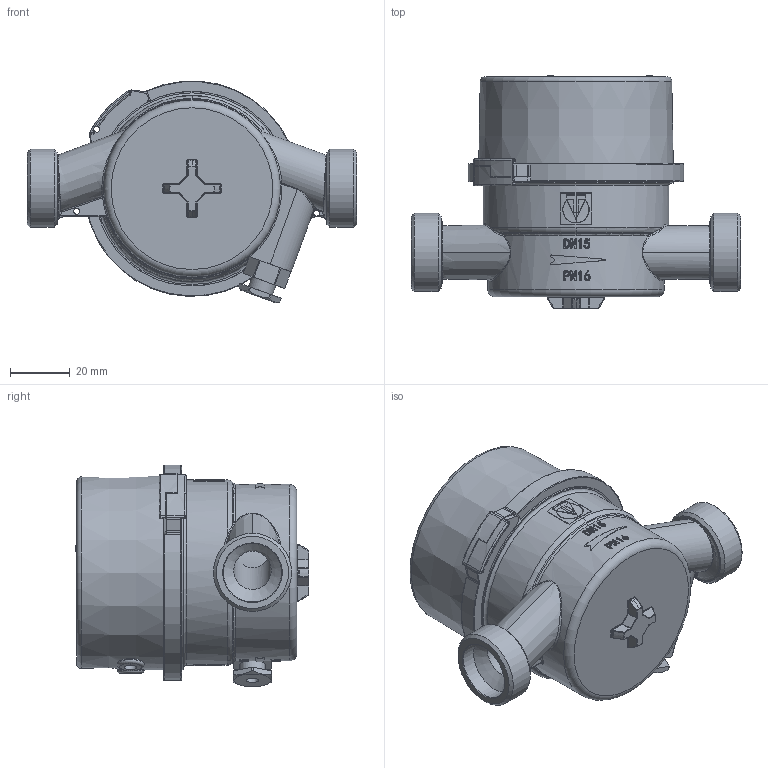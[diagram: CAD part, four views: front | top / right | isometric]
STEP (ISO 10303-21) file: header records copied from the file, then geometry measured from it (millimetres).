
FILE_DESCRIPTION(('TFLEX Exchange Step'),'2;1');
FILE_NAME('Meter VHM-T-15.stp', '2023-08-21T12:15:19+03:00',('denis'),('Unknown organisation'),'TFLEX Exchange 2023.0','T-FLEX CAD','Unknown authorisation');
FILE_SCHEMA( ('AUTOMOTIVE_DESIGN { 1 0 10303 214 1 1 1 1 }') );
Length unit declared in the file: millimetre
Products named in the file (1): Nodes
Bounding box: 110 x 78 x 73.99 mm (x, y, z)
Volume: 162805.7 mm3; surface area: 54422.7 mm2
Topology: 11 solids, 11 shells, 4123 faces, 11019 edges, 7114 vertices
Faces by surface type: plane 1672, bspline 1403, cylinder 727, torus 218, sphere 63, cone 40
Full cylindrical faces by diameter (mm): 2 x3, 2.1 x3, 2.3 x2, 4 x2, 4.05 x2, 5 x5, 5.5 x3, 5.6 x3, 6 x1, 8.5 x3, 8.917 x1, 9 x7, 10 x1, 11 x1, 12 x1, 12.5 x2, 13 x1, 19.5 x2, 26.1 x2, 27 x1, 28 x1, 59 x1, 59.6 x1, 60 x1, 60.5 x1, 62 x2, 62.6 x1, 63.5 x2, 65 x2
Entity records: 168937 total; most frequent: CARTESIAN_POINT 76821, ORIENTED_EDGE 22022, DIRECTION 13955, EDGE_CURVE 11011, VERTEX_POINT 7114, VECTOR 5719, LINE 5719, EDGE_LOOP 4363
